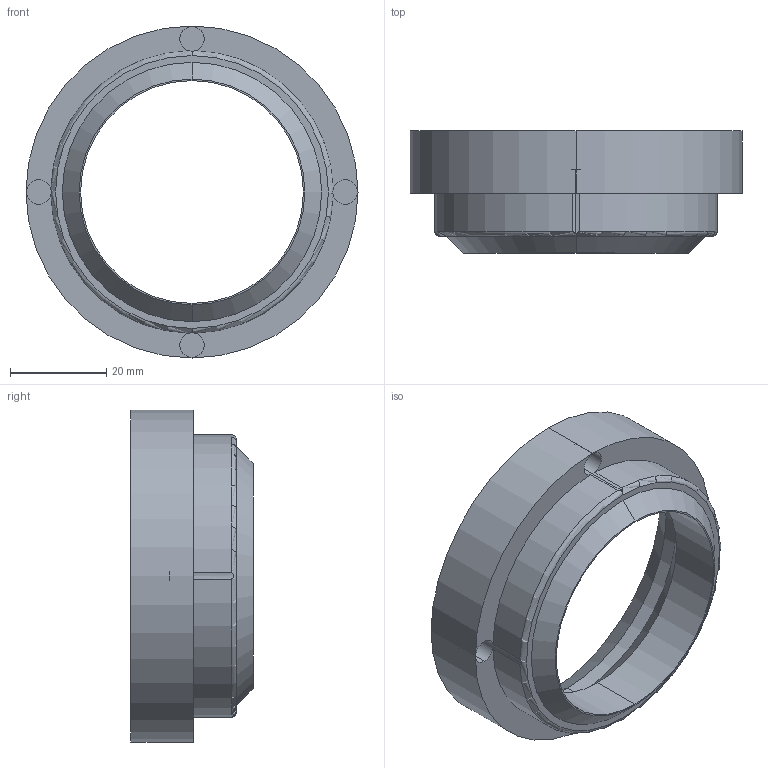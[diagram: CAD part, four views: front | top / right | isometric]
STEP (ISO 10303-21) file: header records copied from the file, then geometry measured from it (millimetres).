
FILE_DESCRIPTION (( 'STEP AP214' ), '1' );
FILE_NAME ('Graph funnel.STEP', '2025-08-11T10:53:44', ( '' ), ( '' ), 'SwSTEP 2.0', 'SolidWorks 2025', '' );
FILE_SCHEMA (( 'AUTOMOTIVE_DESIGN' ));
Length unit declared in the file: millimetre
Products named in the file (1): Graph funnel
Bounding box: 69 x 25.41 x 69 mm (x, y, z)
Volume: 23401.8 mm3; surface area: 12160.9 mm2
Topology: 1 solids, 1 shells, 34 faces, 82 edges, 52 vertices
Faces by surface type: cylinder 18, plane 8, cone 6, torus 2
Entity records: 1079 total; most frequent: CARTESIAN_POINT 223, DIRECTION 194, ORIENTED_EDGE 164, AXIS2_PLACEMENT_3D 83, EDGE_CURVE 82, VERTEX_POINT 52, CIRCLE 48, EDGE_LOOP 38
